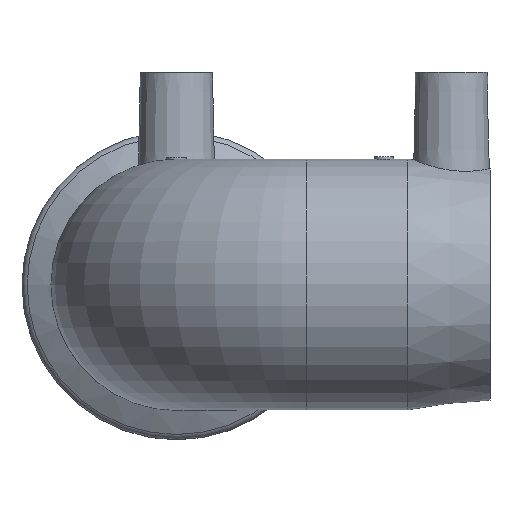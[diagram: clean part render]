
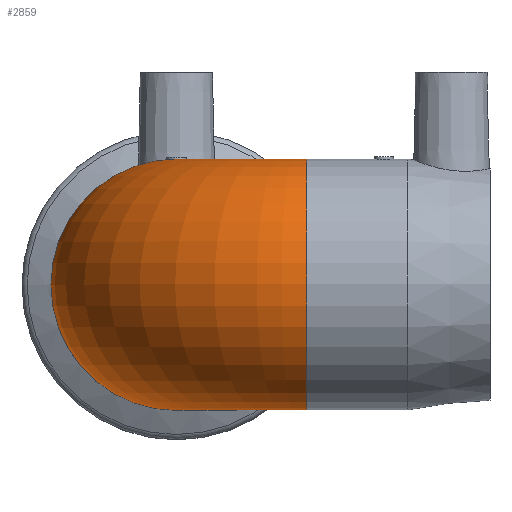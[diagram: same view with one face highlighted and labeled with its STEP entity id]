
A CAD part, top view. The second image highlights one B-rep face of the part: STEP entity #2859.
In plain terms, the highlighted toroidal (fillet/blend) face has major radius 27 mm and minor radius 26 mm.
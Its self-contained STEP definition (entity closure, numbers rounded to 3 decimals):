
#383=TOROIDAL_SURFACE('',#3603,27.,26.);
#581=ORIENTED_EDGE('',*,*,#1371,.F.);
#582=ORIENTED_EDGE('',*,*,#1376,.T.);
#1371=EDGE_CURVE('',#1776,#1776,#2062,.F.);
#1376=EDGE_CURVE('',#1781,#1781,#2065,.F.);
#1776=VERTEX_POINT('',#4889);
#1781=VERTEX_POINT('',#4929);
#2062=CIRCLE('',#3587,26.);
#2065=CIRCLE('',#3592,26.);
#2271=EDGE_LOOP('',(#581));
#2272=EDGE_LOOP('',(#582));
#2544=FACE_BOUND('',#2271,.T.);
#2545=FACE_BOUND('',#2272,.T.);
#2859=ADVANCED_FACE('',(#2544,#2545),#383,.T.);
#3587=AXIS2_PLACEMENT_3D('',#4888,#3968,#3969);
#3592=AXIS2_PLACEMENT_3D('',#4928,#3978,#3979);
#3603=AXIS2_PLACEMENT_3D('',#4990,#4000,#4001);
#3968=DIRECTION('',(-1.,0.,0.));
#3969=DIRECTION('',(0.,0.,-1.));
#3978=DIRECTION('',(0.,0.,-1.));
#3979=DIRECTION('',(1.,0.,0.));
#4000=DIRECTION('',(0.,1.,0.));
#4001=DIRECTION('',(0.,0.,1.));
#4888=CARTESIAN_POINT('',(27.,0.,65.));
#4889=CARTESIAN_POINT('',(27.,0.,39.));
#4928=CARTESIAN_POINT('',(0.,0.,38.));
#4929=CARTESIAN_POINT('',(26.,0.,38.));
#4990=CARTESIAN_POINT('',(27.,0.,38.));
